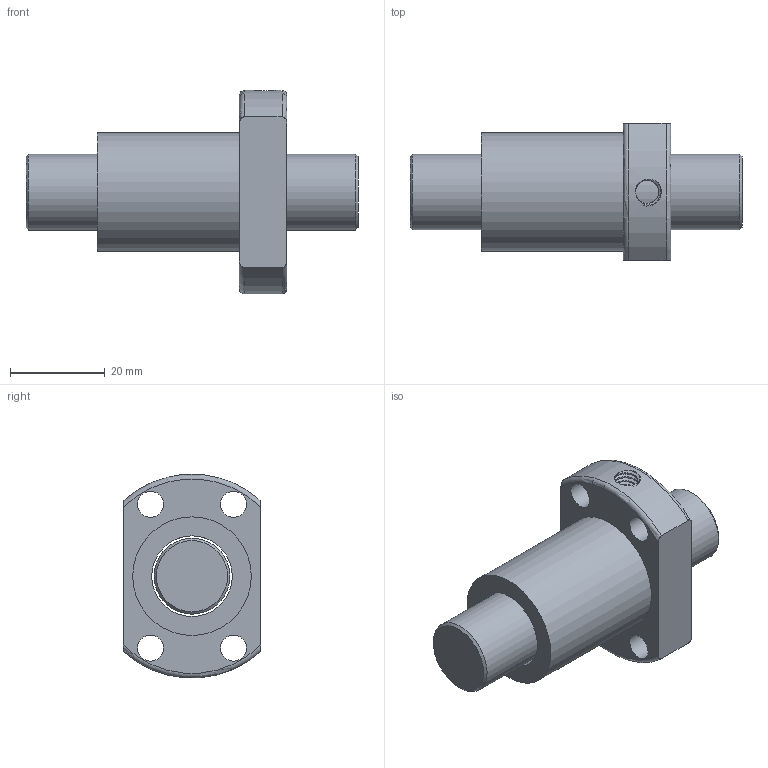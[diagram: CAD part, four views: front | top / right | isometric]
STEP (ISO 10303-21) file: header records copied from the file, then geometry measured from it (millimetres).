
FILE_DESCRIPTION(/* description */ ('Unknown','CAx-IF Rec.Pracs.---Representation and Presentation of Product Manufacturing Information (PMI)---4.0---2014-10-13','CAx-IF Rec.Pracs.---3D Tessellated Geometry---0.4---2014-09-14','2;1'),/* implementation_level */ '2;1');
FILE_NAME(/* name */ 'SFK01602',/* time_stamp */ '2020-12-06T14:36:59+08:00',/* author */ ('Unknown'),/* organization */ ('Unknown'),/* preprocessor_version */ 'ST-DEVELOPER v16.7',/* originating_system */ 'Solid Edge',/* authorisation */ 'Unknown');
FILE_SCHEMA (('AP242_MANAGED_MODEL_BASED_3D_ENGINEERING_MIM_LF { 1 0 10303 442 1 1 4 }'));
Length unit declared in the file: millimetre
Products named in the file (1): SFK01602
Bounding box: 70 x 29 x 42.93 mm (x, y, z)
Volume: 29899.8 mm3; surface area: 12193.8 mm2
Topology: 2 solids, 2 shells, 28 faces, 69 edges, 46 vertices
Faces by surface type: cylinder 12, plane 8, torus 4, cone 2, bspline 2
Full cylindrical faces by diameter (mm): 4.917 x1, 5.5 x4, 16 x1, 17 x1, 25 x1
Entity records: 3108 total; most frequent: CARTESIAN_POINT 2486, DIRECTION 116, ORIENTED_EDGE 108, EDGE_CURVE 54, AXIS2_PLACEMENT_3D 54, EDGE_LOOP 51, FACE_BOUND 51, VERTEX_POINT 41
